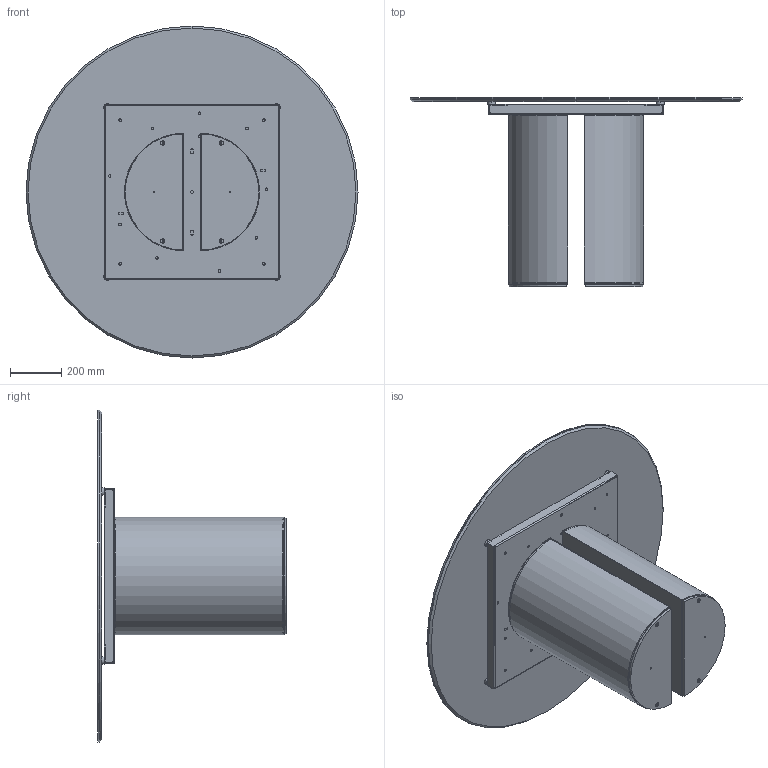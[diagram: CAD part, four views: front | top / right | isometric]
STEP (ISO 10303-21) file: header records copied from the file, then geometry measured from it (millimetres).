
FILE_DESCRIPTION (( 'STEP AP203' ), '1' );
FILE_NAME ('DR05C.STEP', '2024-08-06T12:57:36', ( '' ), ( '' ), 'SwSTEP 2.0', 'SolidWorks 2022', '' );
FILE_SCHEMA (( 'CONFIG_CONTROL_DESIGN' ));
Length unit declared in the file: millimetre
Products named in the file (12): Assieme Basamento PLAI_Basamento per tavoli; COLLO TELAIO UNIVERSALE TTAV0801 CON FERRAMENTA_MTG TOP CRISTALLO VERNICIATO-CERAMICA; PLA000000BAS-00-PLAI BASE GREZZA; PLA000000ZOC-01-PLAI ZOCCOLO DELLA BASE; TTAV0801 TELAIO UNIVERSALE TONDO-PIASTRINA; TTAV0801-02-TELAIO UNIVERSALE TONDO; TTAV0801-02-TELAIO UNIVERSALE TONDO-VASSOIO; M8xXXmm_hex_M8X20mm; M8xXXmm_hex_M8X60mm; K1XCMXX-00-Piani Rotondi in ceramica_D.1300; 434070-00-PIEDINO TPV GOMMA NERO D. 30x8max18_filo estetico; DR05C
Assembly tree (18 placements, depth 4):
  DR05C
    Assieme Basamento PLAI_Basamento per tavoli  x2
      PLA000000BAS-00-PLAI BASE GREZZA
      PLA000000ZOC-01-PLAI ZOCCOLO DELLA BASE
      M8xXXmm_hex_M8X60mm
      M8xXXmm_hex_M8X20mm
    COLLO TELAIO UNIVERSALE TTAV0801 CON FERRAMENTA_MTG TOP CRISTALLO VERNICIATO-CERAMICA
      TTAV0801-02-TELAIO UNIVERSALE TONDO
        TTAV0801-02-TELAIO UNIVERSALE TONDO-VASSOIO
        TTAV0801 TELAIO UNIVERSALE TONDO-PIASTRINA  x4
      434070-00-PIEDINO TPV GOMMA NERO D. 30x8max18_filo estetico  x4
    K1XCMXX-00-Piani Rotondi in ceramica_D.1300
Bounding box: 1300 x 740 x 1300 mm (x, y, z)
Volume: 28972453.6 mm3; surface area: 10408031.3 mm2
Topology: 29 solids, 29 shells, 712 faces, 1788 edges, 1130 vertices
Faces by surface type: plane 360, cylinder 290, cone 38, torus 24
Entity records: 14991 total; most frequent: DIRECTION 2455, CARTESIAN_POINT 2310, ORIENTED_EDGE 2258, EDGE_CURVE 1129, AXIS2_PLACEMENT_3D 865, VECTOR 725, LINE 725, VERTEX_POINT 720
